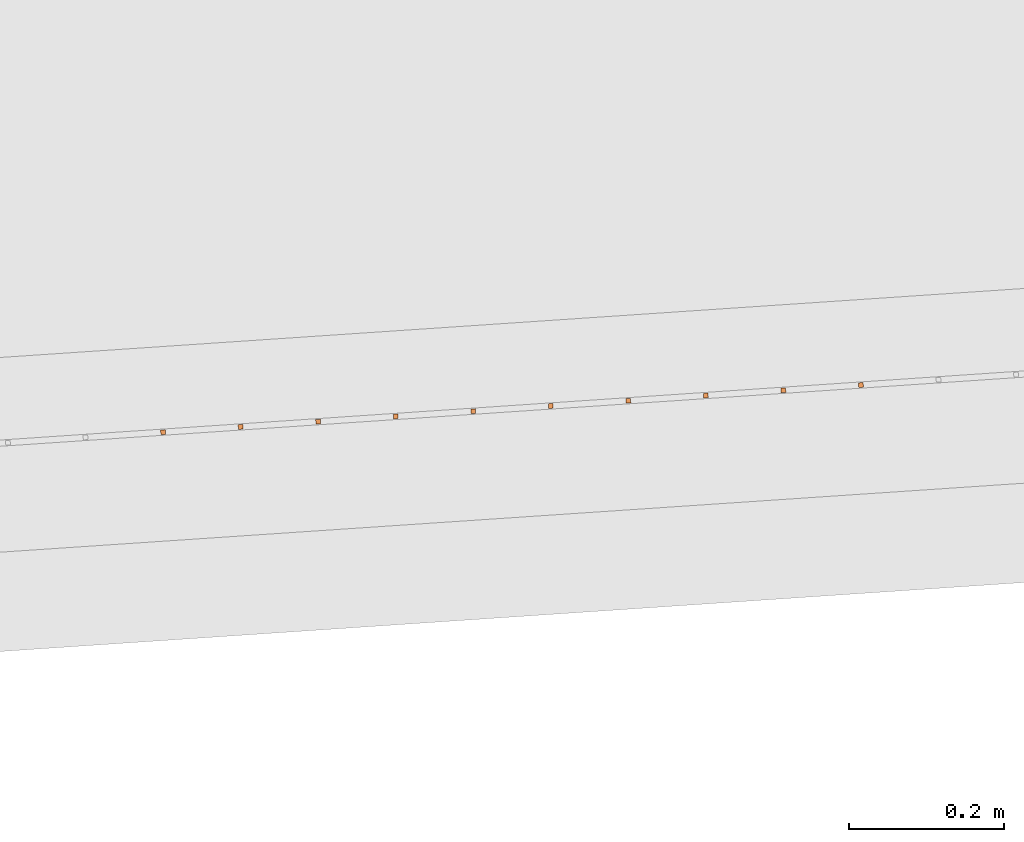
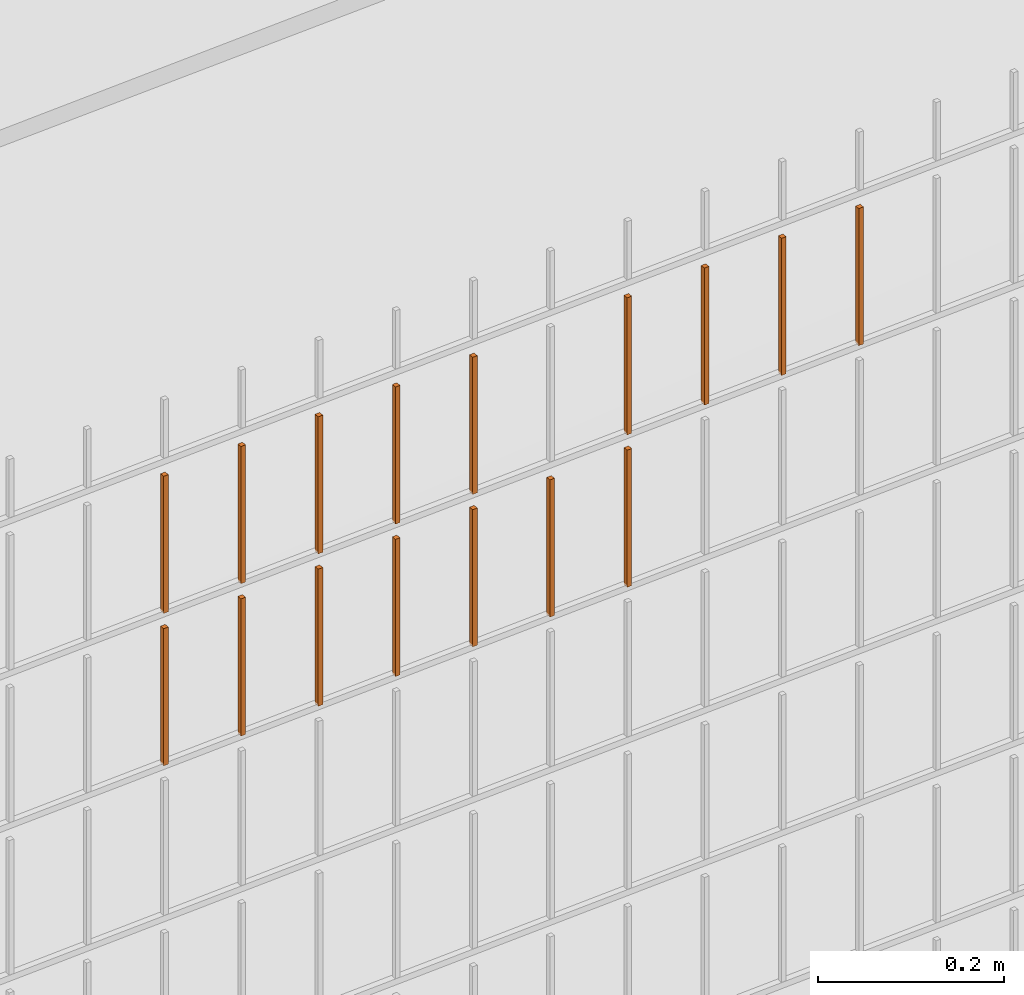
# One storey, part 215 of 1809: 16 proxies, 1 element without a shape of its own.
"""IFC2X3 building model written with IfcOpenShell, lengths in millimetres."""

from ifc_helpers import new_model, entity, si_unit, converted_unit, derived_unit, money_unit, direction, frame, origin_with_axes, place, context, subcontext, project, spatial, faceted_brep, source, transform, mapped, material, type_object, element, aggregate, save


model = new_model("IFC2X3")

# Units and contexts
model_context = context("Model", 3, precision=0.01, world=origin_with_axes(), true_north=direction((0.0, 1.0)))
body_context = subcontext(model_context, "Body", "Model", "MODEL_VIEW")
ifc_project = project(units=[si_unit("LENGTHUNIT", "METRE", prefix="MILLI"), si_unit("AREAUNIT", "SQUARE_METRE"), si_unit("VOLUMEUNIT", "CUBIC_METRE"), converted_unit("PLANEANGLEUNIT", "DEGREE", entity("IfcPlaneAngleMeasure", 0.0174532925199), si_unit("PLANEANGLEUNIT", "RADIAN"), dimensions=[0, 0, 0, 0, 0, 0, 0]), si_unit("SOLIDANGLEUNIT", "STERADIAN"), money_unit("EUR"), converted_unit("TIMEUNIT", "Year", entity("IfcTimeMeasure", 31556926.0), si_unit("TIMEUNIT", "SECOND"), dimensions=[0, 0, 1, 0, 0, 0, 0]), si_unit("MASSUNIT", "GRAM", prefix="KILO"), si_unit("THERMODYNAMICTEMPERATUREUNIT", "DEGREE_CELSIUS"), si_unit("LUMINOUSINTENSITYUNIT", "LUMEN"), si_unit("ENERGYUNIT", "JOULE", prefix="MEGA"), derived_unit("THERMALCONDUCTANCEUNIT", [(si_unit("POWERUNIT", "WATT"), 1), (si_unit("LENGTHUNIT", "METRE"), -1), (si_unit("THERMODYNAMICTEMPERATUREUNIT", "KELVIN"), -1)]), derived_unit("SPECIFICHEATCAPACITYUNIT", [(si_unit("ENERGYUNIT", "JOULE"), 1), (si_unit("MASSUNIT", "GRAM", prefix="KILO"), -1), (si_unit("THERMODYNAMICTEMPERATUREUNIT", "KELVIN"), -1)]), derived_unit("MASSDENSITYUNIT", [(si_unit("MASSUNIT", "GRAM", prefix="KILO"), 1), (si_unit("VOLUMEUNIT", "CUBIC_METRE"), -1)])], contexts=[model_context])

# Site, building, storey
site_placement = place(None, origin_with_axes())
site = spatial("IfcSite", under=ifc_project, at=site_placement, Name="Politse- ja Piirivalveameti ning Päästeameti ühishoone", CompositionType="ELEMENT")
building_placement = place(site_placement, origin_with_axes())
building = spatial("IfcBuilding", under=site, at=building_placement, Name="Politse- ja Piirivalveameti ning Päästeameti ühishoone", CompositionType="ELEMENT")
storey_placement = place(building_placement, origin_with_axes())
storey = spatial("IfcBuildingStorey", under=building, at=storey_placement, Name="Esimene korrus", CompositionType="ELEMENT", Elevation=0.0)

# Proxies
building_element_proxy_type_1 = type_object("IfcBuildingElementProxyType", Name="Railing Type", PredefinedType="NOTDEFINED")
proxy_1_placement = place(storey_placement, frame((89252.001212, -29183.4766571, 203.661247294), z_axis=(0.0, 0.0, 1.0), x_axis=(1.0, 0.0, 0.0)))
proxy_1 = element("IfcBuildingElementProxy", 1, at=proxy_1_placement, inside=storey, type_object=building_element_proxy_type_1, Name="PIIRDEAED")
ifc_material = material(Name="ET-03_Raud")
building_element_proxy_type_2 = type_object("IfcBuildingElementProxyType", Name="IfcBuildingElementProxy", PredefinedType="NOTDEFINED")
shared_shape_1 = source(origin_with_axes(), body_context, "Body", "Brep", [
    faceted_brep([(3.0, 3.0, -0.000752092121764), (-3.0, 3.0, -0.000752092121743), (-3.0, 3.0, 179.99926046), (3.0, 3.0, 179.99926046), (3.0, -3.0, 0.000752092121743), (-3.0, -3.0, 0.000752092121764), (-3.0, -3.0, 180.000764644), (3.0, -3.0, 180.000764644)], [[[0, 1, 2, 3]], [[0, 4, 5, 1]], [[1, 5, 6, 2]], [[3, 2, 6, 7]], [[4, 0, 3, 7]], [[5, 4, 7, 6]]]),
])
proxy_2_placement = place(proxy_1_placement, frame((-60987.7182924, -21417.2649729, 1811.91008536), z_axis=(0.0, 0.0, 1.0), x_axis=(1.0, 0.0, 0.0)))
proxy_2 = element("IfcBuildingElementProxy", 2, at=proxy_2_placement, type_object=building_element_proxy_type_2, material=ifc_material, Name="BALUSTER - 001", context=body_context, shape_type="MappedRepresentation", body=[
    mapped(shared_shape_1, transform((0.0, 0.0, 0.0), x_axis=(-0.0673926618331, 0.997726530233, 0.0), y_axis=(-0.997726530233, -0.0673926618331, 0.0), z_axis=(0.0, 0.0, 1.0))),
])
shared_shape_2 = source(origin_with_axes(), body_context, "Body", "Brep", [
    faceted_brep([(3.0, 3.0, -0.000752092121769), (-3.0, 3.0, -0.000752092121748), (-3.0, 3.0, 179.99926046), (3.0, 3.0, 179.99926046), (3.0, -3.0, 0.000752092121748), (-3.0, -3.0, 0.000752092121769), (-3.0, -3.0, 180.000764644), (3.0, -3.0, 180.000764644)], [[[0, 1, 2, 3]], [[0, 4, 5, 1]], [[1, 5, 6, 2]], [[3, 2, 6, 7]], [[4, 0, 3, 7]], [[5, 4, 7, 6]]]),
])
proxy_3_placement = place(proxy_1_placement, frame((-60389.0823743, -21376.8293758, 1812.06050378), z_axis=(0.0, 0.0, 1.0), x_axis=(1.0, 0.0, 0.0)))
proxy_3 = element("IfcBuildingElementProxy", 3, at=proxy_3_placement, type_object=building_element_proxy_type_2, material=ifc_material, Name="BALUSTER - 001", context=body_context, shape_type="MappedRepresentation", body=[
    mapped(shared_shape_2, transform((0.0, 0.0, 0.0), x_axis=(-0.0673926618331, 0.997726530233, 0.0), y_axis=(-0.997726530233, -0.0673926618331, 0.0), z_axis=(0.0, 0.0, 1.0))),
])
shared_shape_3 = source(origin_with_axes(), body_context, "Body", "Brep", [
    faceted_brep([(3.0, 3.0, -0.000752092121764), (-3.0, 3.0, -0.000752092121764), (-3.0, 3.0, 179.99926046), (3.0, 3.0, 179.99926046), (3.0, -3.0, 0.000752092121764), (-3.0, -3.0, 0.000752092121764), (-3.0, -3.0, 180.000764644), (3.0, -3.0, 180.000764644)], [[[0, 1, 2, 3]], [[0, 4, 5, 1]], [[1, 5, 6, 2]], [[3, 2, 6, 7]], [[4, 0, 3, 7]], [[5, 4, 7, 6]]]),
])
proxy_4_placement = place(proxy_1_placement, frame((-60688.4003334, -21397.0471744, 1811.98529457), z_axis=(0.0, 0.0, 1.0), x_axis=(1.0, 0.0, 0.0)))
proxy_4 = element("IfcBuildingElementProxy", 4, at=proxy_4_placement, type_object=building_element_proxy_type_2, material=ifc_material, Name="BALUSTER - 001", context=body_context, shape_type="MappedRepresentation", body=[
    mapped(shared_shape_3, transform((0.0, 0.0, 0.0), x_axis=(-0.0673926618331, 0.997726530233, 0.0), y_axis=(-0.997726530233, -0.0673926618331, 0.0), z_axis=(0.0, 0.0, 1.0))),
])
shared_shape_4 = source(origin_with_axes(), body_context, "Body", "Brep", [
    faceted_brep([(3.0, 3.0, -0.000752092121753), (-3.0, 3.0, -0.000752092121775), (-3.0, 3.0, 179.99926046), (3.0, 3.0, 179.99926046), (3.0, -3.0, 0.000752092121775), (-3.0, -3.0, 0.000752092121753), (-3.0, -3.0, 180.000764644), (3.0, -3.0, 180.000764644)], [[[0, 1, 2, 3]], [[0, 4, 5, 1]], [[1, 5, 6, 2]], [[3, 2, 6, 7]], [[4, 0, 3, 7]], [[5, 4, 7, 6]]]),
])
proxy_5_placement = place(proxy_1_placement, frame((-60289.3097213, -21370.0901096, 1812.08557352), z_axis=(0.0, 0.0, 1.0), x_axis=(1.0, 0.0, 0.0)))
proxy_5 = element("IfcBuildingElementProxy", 5, at=proxy_5_placement, type_object=building_element_proxy_type_2, material=ifc_material, Name="BALUSTER - 001", context=body_context, shape_type="MappedRepresentation", body=[
    mapped(shared_shape_4, transform((0.0, 0.0, 0.0), x_axis=(-0.0673926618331, 0.997726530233, 0.0), y_axis=(-0.997726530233, -0.0673926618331, 0.0), z_axis=(0.0, 0.0, 1.0))),
])
shared_shape_5 = source(origin_with_axes(), body_context, "Body", "Brep", [
    faceted_brep([(3.0, 3.0, -0.000752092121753), (-3.0, 3.0, -0.000752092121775), (-3.0, 3.0, 179.99926046), (3.0, 3.0, 179.99926046), (3.0, -3.0, 0.000752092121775), (-3.0, -3.0, 0.000752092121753), (-3.0, -3.0, 180.000764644), (3.0, -3.0, 180.000764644)], [[[0, 1, 2, 3]], [[0, 4, 5, 1]], [[1, 5, 6, 2]], [[3, 2, 6, 7]], [[4, 0, 3, 7]], [[5, 4, 7, 6]]]),
])
proxy_6_placement = place(proxy_1_placement, frame((-60788.1729864, -21403.7864405, 1611.96022483), z_axis=(0.0, 0.0, 1.0), x_axis=(1.0, 0.0, 0.0)))
proxy_6 = element("IfcBuildingElementProxy", 6, at=proxy_6_placement, type_object=building_element_proxy_type_2, material=ifc_material, Name="BALUSTER - 001", context=body_context, shape_type="MappedRepresentation", body=[
    mapped(shared_shape_5, transform((0.0, 0.0, 0.0), x_axis=(-0.0673926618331, 0.997726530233, 0.0), y_axis=(-0.997726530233, -0.0673926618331, 0.0), z_axis=(0.0, 0.0, 1.0))),
])
shared_shape_6 = source(origin_with_axes(), body_context, "Body", "Brep", [
    faceted_brep([(3.0, 3.0, -0.000752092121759), (-3.0, 3.0, -0.000752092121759), (-3.0, 3.0, 179.99926046), (3.0, 3.0, 179.99926046), (3.0, -3.0, 0.000752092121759), (-3.0, -3.0, 0.000752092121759), (-3.0, -3.0, 180.000764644), (3.0, -3.0, 180.000764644)], [[[0, 1, 2, 3]], [[0, 4, 5, 1]], [[1, 5, 6, 2]], [[3, 2, 6, 7]], [[4, 0, 3, 7]], [[5, 4, 7, 6]]]),
])
proxy_7_placement = place(proxy_1_placement, frame((-60887.9456394, -21410.5257067, 1611.9351551), z_axis=(0.0, 0.0, 1.0), x_axis=(1.0, 0.0, 0.0)))
proxy_7 = element("IfcBuildingElementProxy", 7, at=proxy_7_placement, type_object=building_element_proxy_type_2, material=ifc_material, Name="BALUSTER - 001", context=body_context, shape_type="MappedRepresentation", body=[
    mapped(shared_shape_6, transform((0.0, 0.0, 0.0), x_axis=(-0.0673926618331, 0.997726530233, 0.0), y_axis=(-0.997726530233, -0.0673926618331, 0.0), z_axis=(0.0, 0.0, 1.0))),
])
shared_shape_7 = source(origin_with_axes(), body_context, "Body", "Brep", [
    faceted_brep([(3.0, 3.0, -0.000752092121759), (-3.0, 3.0, -0.000752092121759), (-3.0, 3.0, 179.99926046), (3.0, 3.0, 179.99926046), (3.0, -3.0, 0.000752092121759), (-3.0, -3.0, 0.000752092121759), (-3.0, -3.0, 180.000764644), (3.0, -3.0, 180.000764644)], [[[0, 1, 2, 3]], [[0, 4, 5, 1]], [[1, 5, 6, 2]], [[3, 2, 6, 7]], [[4, 0, 3, 7]], [[5, 4, 7, 6]]]),
])
proxy_8_placement = place(proxy_1_placement, frame((-60887.9456394, -21410.5257067, 1811.9351551), z_axis=(0.0, 0.0, 1.0), x_axis=(1.0, 0.0, 0.0)))
proxy_8 = element("IfcBuildingElementProxy", 8, at=proxy_8_placement, type_object=building_element_proxy_type_2, material=ifc_material, Name="BALUSTER - 001", context=body_context, shape_type="MappedRepresentation", body=[
    mapped(shared_shape_7, transform((0.0, 0.0, 0.0), x_axis=(-0.0673926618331, 0.997726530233, 0.0), y_axis=(-0.997726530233, -0.0673926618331, 0.0), z_axis=(0.0, 0.0, 1.0))),
])
shared_shape_8 = source(origin_with_axes(), body_context, "Body", "Brep", [
    faceted_brep([(3.0, 3.0, -0.000752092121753), (-3.0, 3.0, -0.000752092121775), (-3.0, 3.0, 179.99926046), (3.0, 3.0, 179.99926046), (3.0, -3.0, 0.000752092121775), (-3.0, -3.0, 0.000752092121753), (-3.0, -3.0, 180.000764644), (3.0, -3.0, 180.000764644)], [[[0, 1, 2, 3]], [[0, 4, 5, 1]], [[1, 5, 6, 2]], [[3, 2, 6, 7]], [[4, 0, 3, 7]], [[5, 4, 7, 6]]]),
])
proxy_9_placement = place(proxy_1_placement, frame((-60189.5370682, -21363.3508434, 1812.11064326), z_axis=(0.0, 0.0, 1.0), x_axis=(1.0, 0.0, 0.0)))
proxy_9 = element("IfcBuildingElementProxy", 9, at=proxy_9_placement, type_object=building_element_proxy_type_2, material=ifc_material, Name="BALUSTER - 001", context=body_context, shape_type="MappedRepresentation", body=[
    mapped(shared_shape_8, transform((0.0, 0.0, 0.0), x_axis=(-0.0673926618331, 0.997726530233, 0.0), y_axis=(-0.997726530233, -0.0673926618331, 0.0), z_axis=(0.0, 0.0, 1.0))),
])
shared_shape_9 = source(origin_with_axes(), body_context, "Body", "Brep", [
    faceted_brep([(3.0, 3.0, -0.000752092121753), (-3.0, 3.0, -0.000752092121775), (-3.0, 3.0, 179.99926046), (3.0, 3.0, 179.99926046), (3.0, -3.0, 0.000752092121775), (-3.0, -3.0, 0.000752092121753), (-3.0, -3.0, 180.000764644), (3.0, -3.0, 180.000764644)], [[[0, 1, 2, 3]], [[0, 4, 5, 1]], [[1, 5, 6, 2]], [[3, 2, 6, 7]], [[4, 0, 3, 7]], [[5, 4, 7, 6]]]),
])
proxy_10_placement = place(proxy_1_placement, frame((-60788.1729864, -21403.7864405, 1811.96022483), z_axis=(0.0, 0.0, 1.0), x_axis=(1.0, 0.0, 0.0)))
proxy_10 = element("IfcBuildingElementProxy", 10, at=proxy_10_placement, type_object=building_element_proxy_type_2, material=ifc_material, Name="BALUSTER - 001", context=body_context, shape_type="MappedRepresentation", body=[
    mapped(shared_shape_9, transform((0.0, 0.0, 0.0), x_axis=(-0.0673926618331, 0.997726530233, 0.0), y_axis=(-0.997726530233, -0.0673926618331, 0.0), z_axis=(0.0, 0.0, 1.0))),
])
shared_shape_10 = source(origin_with_axes(), body_context, "Body", "Brep", [
    faceted_brep([(3.0, 3.0, -0.000752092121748), (-3.0, 3.0, -0.00075209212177), (-3.0, 3.0, 179.99926046), (3.0, 3.0, 179.99926046), (3.0, -3.0, 0.00075209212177), (-3.0, -3.0, 0.000752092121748), (-3.0, -3.0, 180.000764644), (3.0, -3.0, 180.000764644)], [[[0, 1, 2, 3]], [[0, 4, 5, 1]], [[1, 5, 6, 2]], [[3, 2, 6, 7]], [[4, 0, 3, 7]], [[5, 4, 7, 6]]]),
])
proxy_11_placement = place(proxy_1_placement, frame((-61087.4909454, -21424.0042391, 1611.88501562), z_axis=(0.0, 0.0, 1.0), x_axis=(1.0, 0.0, 0.0)))
proxy_11 = element("IfcBuildingElementProxy", 11, at=proxy_11_placement, type_object=building_element_proxy_type_2, material=ifc_material, Name="BALUSTER - 001", context=body_context, shape_type="MappedRepresentation", body=[
    mapped(shared_shape_10, transform((0.0, 0.0, 0.0), x_axis=(-0.0673926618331, 0.997726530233, 0.0), y_axis=(-0.997726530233, -0.0673926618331, 0.0), z_axis=(0.0, 0.0, 1.0))),
])
shared_shape_11 = source(origin_with_axes(), body_context, "Body", "Brep", [
    faceted_brep([(3.0, 3.0, -0.000752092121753), (-3.0, 3.0, -0.000752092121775), (-3.0, 3.0, 179.99926046), (3.0, 3.0, 179.99926046), (3.0, -3.0, 0.000752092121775), (-3.0, -3.0, 0.000752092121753), (-3.0, -3.0, 180.000764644), (3.0, -3.0, 180.000764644)], [[[0, 1, 2, 3]], [[0, 4, 5, 1]], [[1, 5, 6, 2]], [[3, 2, 6, 7]], [[4, 0, 3, 7]], [[5, 4, 7, 6]]]),
])
proxy_12_placement = place(proxy_1_placement, frame((-60488.8550273, -21383.568642, 1612.03543405), z_axis=(0.0, 0.0, 1.0), x_axis=(1.0, 0.0, 0.0)))
proxy_12 = element("IfcBuildingElementProxy", 12, at=proxy_12_placement, type_object=building_element_proxy_type_2, material=ifc_material, Name="BALUSTER - 001", context=body_context, shape_type="MappedRepresentation", body=[
    mapped(shared_shape_11, transform((0.0, 0.0, 0.0), x_axis=(-0.0673926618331, 0.997726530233, 0.0), y_axis=(-0.997726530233, -0.0673926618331, 0.0), z_axis=(0.0, 0.0, 1.0))),
])
shared_shape_12 = source(origin_with_axes(), body_context, "Body", "Brep", [
    faceted_brep([(3.0, 3.0, -0.000752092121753), (-3.0, 3.0, -0.000752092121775), (-3.0, 3.0, 179.99926046), (3.0, 3.0, 179.99926046), (3.0, -3.0, 0.000752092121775), (-3.0, -3.0, 0.000752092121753), (-3.0, -3.0, 180.000764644), (3.0, -3.0, 180.000764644)], [[[0, 1, 2, 3]], [[0, 4, 5, 1]], [[1, 5, 6, 2]], [[3, 2, 6, 7]], [[4, 0, 3, 7]], [[5, 4, 7, 6]]]),
])
proxy_13_placement = place(proxy_1_placement, frame((-60588.6276803, -21390.3079082, 1612.01036431), z_axis=(0.0, 0.0, 1.0), x_axis=(1.0, 0.0, 0.0)))
proxy_13 = element("IfcBuildingElementProxy", 13, at=proxy_13_placement, type_object=building_element_proxy_type_2, material=ifc_material, Name="BALUSTER - 001", context=body_context, shape_type="MappedRepresentation", body=[
    mapped(shared_shape_12, transform((0.0, 0.0, 0.0), x_axis=(-0.0673926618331, 0.997726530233, 0.0), y_axis=(-0.997726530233, -0.0673926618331, 0.0), z_axis=(0.0, 0.0, 1.0))),
])
shared_shape_13 = source(origin_with_axes(), body_context, "Body", "Brep", [
    faceted_brep([(3.0, 3.0, -0.000752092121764), (-3.0, 3.0, -0.000752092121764), (-3.0, 3.0, 179.99926046), (3.0, 3.0, 179.99926046), (3.0, -3.0, 0.000752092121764), (-3.0, -3.0, 0.000752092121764), (-3.0, -3.0, 180.000764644), (3.0, -3.0, 180.000764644)], [[[0, 1, 2, 3]], [[0, 4, 5, 1]], [[1, 5, 6, 2]], [[3, 2, 6, 7]], [[4, 0, 3, 7]], [[5, 4, 7, 6]]]),
])
proxy_14_placement = place(proxy_1_placement, frame((-60688.4003334, -21397.0471744, 1611.98529457), z_axis=(0.0, 0.0, 1.0), x_axis=(1.0, 0.0, 0.0)))
proxy_14 = element("IfcBuildingElementProxy", 14, at=proxy_14_placement, type_object=building_element_proxy_type_2, material=ifc_material, Name="BALUSTER - 001", context=body_context, shape_type="MappedRepresentation", body=[
    mapped(shared_shape_13, transform((0.0, 0.0, 0.0), x_axis=(-0.0673926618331, 0.997726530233, 0.0), y_axis=(-0.997726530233, -0.0673926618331, 0.0), z_axis=(0.0, 0.0, 1.0))),
])
shared_shape_14 = source(origin_with_axes(), body_context, "Body", "Brep", [
    faceted_brep([(3.0, 3.0, -0.000752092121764), (-3.0, 3.0, -0.000752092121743), (-3.0, 3.0, 179.99926046), (3.0, 3.0, 179.99926046), (3.0, -3.0, 0.000752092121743), (-3.0, -3.0, 0.000752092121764), (-3.0, -3.0, 180.000764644), (3.0, -3.0, 180.000764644)], [[[0, 1, 2, 3]], [[0, 4, 5, 1]], [[1, 5, 6, 2]], [[3, 2, 6, 7]], [[4, 0, 3, 7]], [[5, 4, 7, 6]]]),
])
proxy_15_placement = place(proxy_1_placement, frame((-60987.7182924, -21417.2649729, 1611.91008536), z_axis=(0.0, 0.0, 1.0), x_axis=(1.0, 0.0, 0.0)))
proxy_15 = element("IfcBuildingElementProxy", 15, at=proxy_15_placement, type_object=building_element_proxy_type_2, material=ifc_material, Name="BALUSTER - 001", context=body_context, shape_type="MappedRepresentation", body=[
    mapped(shared_shape_14, transform((0.0, 0.0, 0.0), x_axis=(-0.0673926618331, 0.997726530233, 0.0), y_axis=(-0.997726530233, -0.0673926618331, 0.0), z_axis=(0.0, 0.0, 1.0))),
])
shared_shape_15 = source(origin_with_axes(), body_context, "Body", "Brep", [
    faceted_brep([(3.0, 3.0, -0.000752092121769), (-3.0, 3.0, -0.00075209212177), (-3.0, 3.0, 179.99926046), (3.0, 3.0, 179.99926046), (3.0, -3.0, 0.00075209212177), (-3.0, -3.0, 0.000752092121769), (-3.0, -3.0, 180.000764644), (3.0, -3.0, 180.000764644)], [[[0, 1, 2, 3]], [[0, 4, 5, 1]], [[1, 5, 6, 2]], [[3, 2, 6, 7]], [[4, 0, 3, 7]], [[5, 4, 7, 6]]]),
])
proxy_16_placement = place(proxy_1_placement, frame((-60488.8550273, -21383.568642, 1812.03543405), z_axis=(0.0, 0.0, 1.0), x_axis=(1.0, 0.0, 0.0)))
proxy_16 = element("IfcBuildingElementProxy", 16, at=proxy_16_placement, type_object=building_element_proxy_type_2, material=ifc_material, Name="BALUSTER - 001", context=body_context, shape_type="MappedRepresentation", body=[
    mapped(shared_shape_15, transform((0.0, 0.0, 0.0), x_axis=(-0.0673926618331, 0.997726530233, 0.0), y_axis=(-0.997726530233, -0.0673926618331, 0.0), z_axis=(0.0, 0.0, 1.0))),
])
shared_shape_16 = source(origin_with_axes(), body_context, "Body", "Brep", [
    faceted_brep([(3.0, 3.0, -0.000752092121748), (-3.0, 3.0, -0.00075209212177), (-3.0, 3.0, 179.99926046), (3.0, 3.0, 179.99926046), (3.0, -3.0, 0.00075209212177), (-3.0, -3.0, 0.000752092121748), (-3.0, -3.0, 180.000764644), (3.0, -3.0, 180.000764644)], [[[0, 1, 2, 3]], [[0, 4, 5, 1]], [[1, 5, 6, 2]], [[3, 2, 6, 7]], [[4, 0, 3, 7]], [[5, 4, 7, 6]]]),
])
proxy_17_placement = place(proxy_1_placement, frame((-61087.4909454, -21424.0042391, 1811.88501562), z_axis=(0.0, 0.0, 1.0), x_axis=(1.0, 0.0, 0.0)))
proxy_17 = element("IfcBuildingElementProxy", 17, at=proxy_17_placement, type_object=building_element_proxy_type_2, material=ifc_material, Name="BALUSTER - 001", context=body_context, shape_type="MappedRepresentation", body=[
    mapped(shared_shape_16, transform((0.0, 0.0, 0.0), x_axis=(-0.0673926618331, 0.997726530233, 0.0), y_axis=(-0.997726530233, -0.0673926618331, 0.0), z_axis=(0.0, 0.0, 1.0))),
])
aggregate(proxy_1, [proxy_12, proxy_13, proxy_14, proxy_6, proxy_7, proxy_15, proxy_11, proxy_9, proxy_5, proxy_3, proxy_16, proxy_4, proxy_10, proxy_8, proxy_2, proxy_17])

save(model, "model.ifc")
